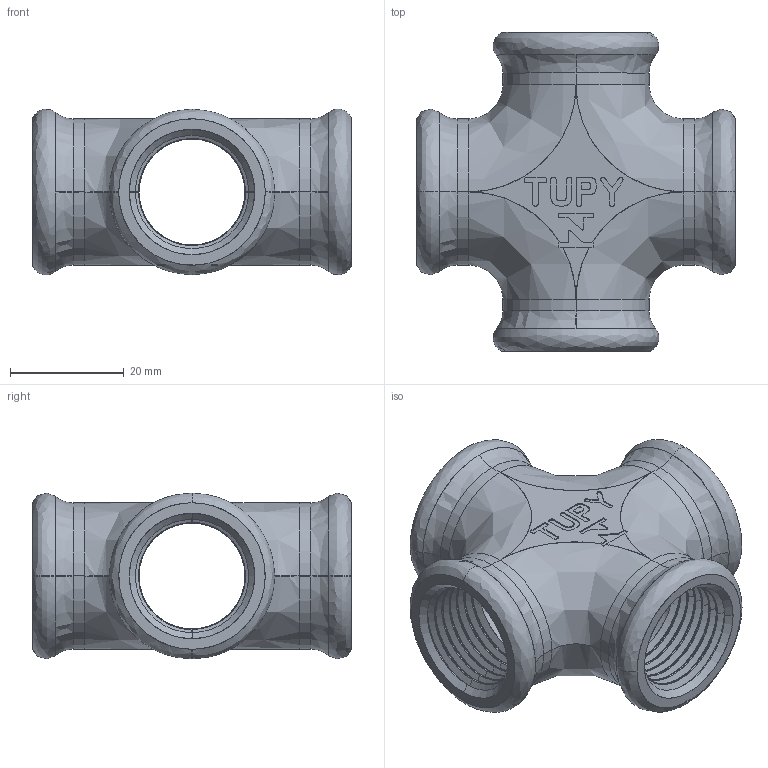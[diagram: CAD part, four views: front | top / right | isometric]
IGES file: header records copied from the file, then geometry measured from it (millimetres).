
Start section: SolidWorks IGES file using analytic representation for surfaces
Global section: file name: C:\Users\Joel Rosa\Desktop\Tubulação\12-18-OK\12-18-004.IGS; native system: SolidWorks 2011; preprocessor: SolidWorks 2011; author: Joel Rosa; date: 121207.003145; units: millimetre
Bounding box: 56 x 56 x 29.1 mm (x, y, z)
Surface area: 15570.2 mm2 (no closed solid volume)
Topology: 0 solids, 0 shells, 448 faces, 3328 edges, 3328 vertices
Faces by surface type: bspline 310, revolution 138
